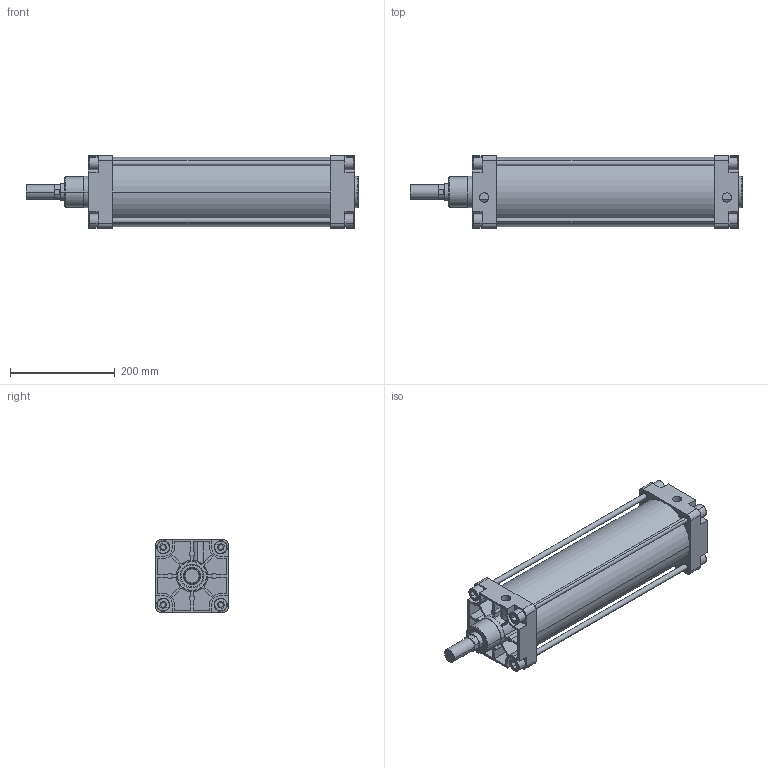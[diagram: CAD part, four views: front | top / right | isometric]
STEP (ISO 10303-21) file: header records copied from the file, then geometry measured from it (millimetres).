
FILE_DESCRIPTION(('CATIA V5 STEP Exchange'),'2;1');
FILE_NAME('D:\stp file for catalog\PNC\125\PNC 125-32-350-00.stp','2015-09-13T12:08:19+00:00',('none'),('none'),'Version 5-6 Release 2012','CATIA V5 STEP AP203','none');
FILE_SCHEMA(('CONFIG_CONTROL_DESIGN'));
Length unit declared in the file: millimetre
Products named in the file (1): PNC 125-32-350-00
Assembly tree (2 placements, depth 2):
  PNC 125-32-350-00
    #58
    #14773
Bounding box: 635 x 139 x 139 mm (x, y, z)
Volume: 3202104.6 mm3; surface area: 735924.4 mm2
Topology: 7 solids, 11 shells, 557 faces, 1420 edges, 938 vertices
Faces by surface type: plane 337, cylinder 174, torus 24, extrusion 16, cone 6
Entity records: 15682 total; most frequent: CARTESIAN_POINT 3254, ORIENTED_EDGE 2840, DIRECTION 1937, EDGE_CURVE 1420, VERTEX_POINT 938, VECTOR 903, LINE 887, AXIS2_PLACEMENT_3D 735
